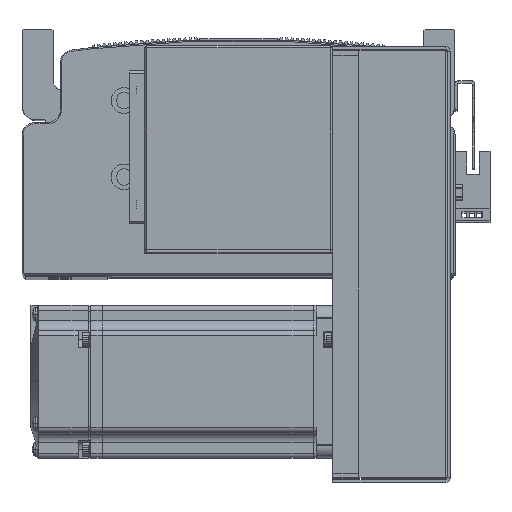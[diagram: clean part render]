
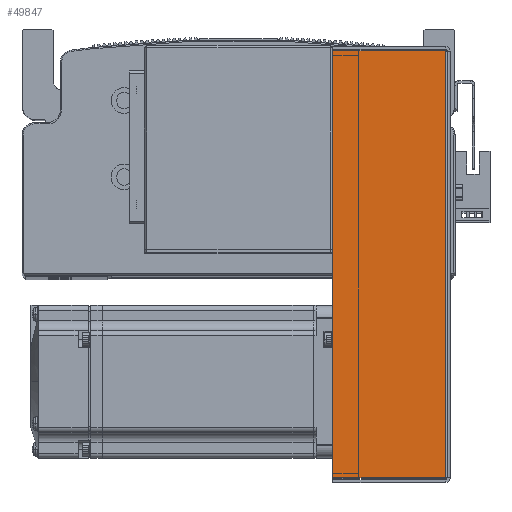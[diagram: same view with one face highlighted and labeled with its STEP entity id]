
A CAD part, top view. The second image highlights one B-rep face of the part: STEP entity #49847.
In plain terms, the highlighted planar face has unit normal (0, 0, 1) as drawn and (0, 0, -1) by its records, which use the part's own axes.
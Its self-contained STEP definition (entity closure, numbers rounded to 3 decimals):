
#3064 = AXIS2_PLACEMENT_3D ( 'NONE', #42829, #42903, #42904 ) ;
#13057 = ORIENTED_EDGE ( 'NONE', *, *, #37396, .F. ) ;
#13103 = ORIENTED_EDGE ( 'NONE', *, *, #37407, .T. ) ;
#13106 = ORIENTED_EDGE ( 'NONE', *, *, #37496, .T. ) ;
#13125 = ORIENTED_EDGE ( 'NONE', *, *, #37384, .F. ) ;
#25825 = VERTEX_POINT ( 'NONE', #65237 ) ;
#25938 = VERTEX_POINT ( 'NONE', #65268 ) ;
#25981 = VERTEX_POINT ( 'NONE', #65381 ) ;
#25989 = VERTEX_POINT ( 'NONE', #65382 ) ;
#31552 = FACE_OUTER_BOUND ( 'NONE', #68920, .T. ) ;
#37384 = EDGE_CURVE ( 'NONE', #25938, #25825, #49896, .T. ) ;
#37396 = EDGE_CURVE ( 'NONE', #25825, #25989, #50006, .T. ) ;
#37407 = EDGE_CURVE ( 'NONE', #25938, #25981, #50123, .T. ) ;
#37496 = EDGE_CURVE ( 'NONE', #25981, #25989, #40358, .T. ) ;
#40358 = LINE ( 'NONE', #58372, #40359 ) ;
#40359 = VECTOR ( 'NONE', #58261, 1000. ) ;
#40369 = VECTOR ( 'NONE', #57849, 1000. ) ;
#42829 = CARTESIAN_POINT ( 'NONE',  ( 0., 0., -40.5 ) ) ;
#42880 = PLANE ( 'NONE',  #3064 ) ;
#42903 = DIRECTION ( 'NONE',  ( 0., 0., 1. ) ) ;
#42904 = DIRECTION ( 'NONE',  ( 0., -1., 0. ) ) ;
#49847 = ADVANCED_FACE ( 'NONE', ( #31552 ), #42880, .F. ) ;
#49896 = LINE ( 'NONE', #57770, #49928 ) ;
#49928 = VECTOR ( 'NONE', #57747, 1000. ) ;
#50006 = LINE ( 'NONE', #57794, #50011 ) ;
#50011 = VECTOR ( 'NONE', #57806, 1000. ) ;
#50123 = LINE ( 'NONE', #57735, #40369 ) ;
#57735 = CARTESIAN_POINT ( 'NONE',  ( -83.793, 0., -40.5 ) ) ;
#57747 = DIRECTION ( 'NONE',  ( 1., 0., 0. ) ) ;
#57770 = CARTESIAN_POINT ( 'NONE',  ( 0., 0.737, -40.5 ) ) ;
#57794 = CARTESIAN_POINT ( 'NONE',  ( 83.793, 0., -40.5 ) ) ;
#57806 = DIRECTION ( 'NONE',  ( 0., 1., 0. ) ) ;
#57849 = DIRECTION ( 'NONE',  ( 0., 1., 0. ) ) ;
#58261 = DIRECTION ( 'NONE',  ( 1., 0., 0. ) ) ;
#58372 = CARTESIAN_POINT ( 'NONE',  ( 84.5, 45., -40.5 ) ) ;
#65237 = CARTESIAN_POINT ( 'NONE',  ( 83.793, 0.737, -40.5 ) ) ;
#65268 = CARTESIAN_POINT ( 'NONE',  ( -83.793, 0.737, -40.5 ) ) ;
#65381 = CARTESIAN_POINT ( 'NONE',  ( -83.793, 45., -40.5 ) ) ;
#65382 = CARTESIAN_POINT ( 'NONE',  ( 83.793, 45., -40.5 ) ) ;
#68920 = EDGE_LOOP ( 'NONE', ( #13125, #13103, #13106, #13057 ) ) ;
